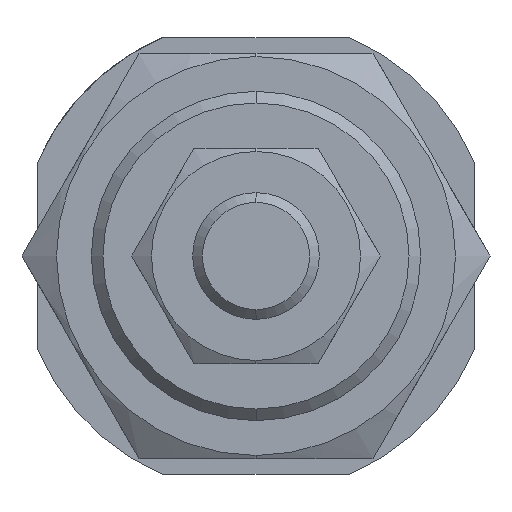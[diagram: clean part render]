
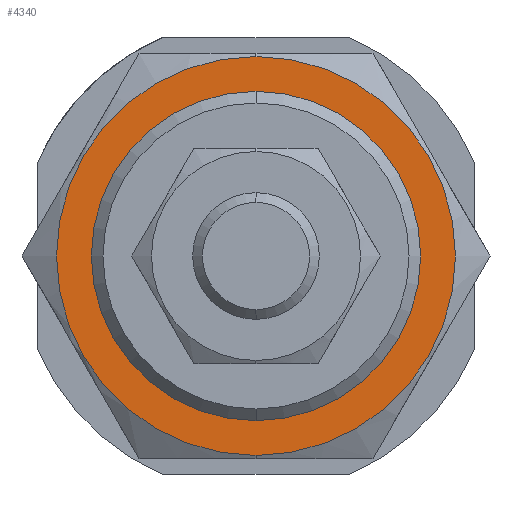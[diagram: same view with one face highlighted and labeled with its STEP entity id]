
A CAD part, left-side view. The second image highlights one B-rep face of the part: STEP entity #4340.
In plain terms, the highlighted planar face has unit normal (-1, 0, 0).
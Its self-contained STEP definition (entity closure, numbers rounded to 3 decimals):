
#68 = DIRECTION ( 'NONE',  ( 0., 0., -1. ) ) ;
#107 = PLANE ( 'NONE',  #654 ) ;
#165 = DIRECTION ( 'NONE',  ( 1., 0., 0. ) ) ;
#407 = ORIENTED_EDGE ( 'NONE', *, *, #1035, .F. ) ;
#496 = CARTESIAN_POINT ( 'NONE',  ( -11., 0., 15.75 ) ) ;
#545 = EDGE_CURVE ( 'NONE', #5232, #4889, #3233, .T. ) ;
#619 = CARTESIAN_POINT ( 'NONE',  ( -11., 0., 0. ) ) ;
#625 = CIRCLE ( 'NONE', #2092, 15.75 ) ;
#654 = AXIS2_PLACEMENT_3D ( 'NONE', #2618, #4800, #3956 ) ;
#895 = DIRECTION ( 'NONE',  ( 1., 0., 0. ) ) ;
#896 = VERTEX_POINT ( 'NONE', #496 ) ;
#1035 = EDGE_CURVE ( 'NONE', #896, #3674, #625, .T. ) ;
#1049 = AXIS2_PLACEMENT_3D ( 'NONE', #2363, #1954, #5298 ) ;
#1148 = EDGE_LOOP ( 'NONE', ( #1160, #2715 ) ) ;
#1160 = ORIENTED_EDGE ( 'NONE', *, *, #545, .T. ) ;
#1368 = EDGE_CURVE ( 'NONE', #3674, #896, #3811, .T. ) ;
#1428 = EDGE_LOOP ( 'NONE', ( #4508, #407 ) ) ;
#1557 = CARTESIAN_POINT ( 'NONE',  ( -11., 0., -13. ) ) ;
#1846 = DIRECTION ( 'NONE',  ( 0., 0., -1. ) ) ;
#1954 = DIRECTION ( 'NONE',  ( 1., 0., 0. ) ) ;
#2092 = AXIS2_PLACEMENT_3D ( 'NONE', #3901, #165, #1846 ) ;
#2180 = CARTESIAN_POINT ( 'NONE',  ( -11., 0., 0. ) ) ;
#2363 = CARTESIAN_POINT ( 'NONE',  ( -11., 0., 0. ) ) ;
#2618 = CARTESIAN_POINT ( 'NONE',  ( -11., 0., 0. ) ) ;
#2653 = EDGE_CURVE ( 'NONE', #4889, #5232, #3149, .T. ) ;
#2715 = ORIENTED_EDGE ( 'NONE', *, *, #2653, .T. ) ;
#3149 = CIRCLE ( 'NONE', #3853, 13. ) ;
#3233 = CIRCLE ( 'NONE', #1049, 13. ) ;
#3414 = DIRECTION ( 'NONE',  ( 0., 0., -1. ) ) ;
#3541 = CARTESIAN_POINT ( 'NONE',  ( -11., 0., -15.75 ) ) ;
#3674 = VERTEX_POINT ( 'NONE', #3541 ) ;
#3809 = DIRECTION ( 'NONE',  ( 1., 0., 0. ) ) ;
#3811 = CIRCLE ( 'NONE', #5035, 15.75 ) ;
#3853 = AXIS2_PLACEMENT_3D ( 'NONE', #619, #3809, #68 ) ;
#3875 = FACE_BOUND ( 'NONE', #1148, .T. ) ;
#3901 = CARTESIAN_POINT ( 'NONE',  ( -11., 0., 0. ) ) ;
#3956 = DIRECTION ( 'NONE',  ( 0., 1., 0. ) ) ;
#4340 = ADVANCED_FACE ( 'NONE', ( #4723, #3875 ), #107, .F. ) ;
#4400 = CARTESIAN_POINT ( 'NONE',  ( -11., 0., 13. ) ) ;
#4508 = ORIENTED_EDGE ( 'NONE', *, *, #1368, .F. ) ;
#4723 = FACE_OUTER_BOUND ( 'NONE', #1428, .T. ) ;
#4800 = DIRECTION ( 'NONE',  ( 1., 0., 0. ) ) ;
#4889 = VERTEX_POINT ( 'NONE', #1557 ) ;
#5035 = AXIS2_PLACEMENT_3D ( 'NONE', #2180, #895, #3414 ) ;
#5232 = VERTEX_POINT ( 'NONE', #4400 ) ;
#5298 = DIRECTION ( 'NONE',  ( 0., 0., -1. ) ) ;
